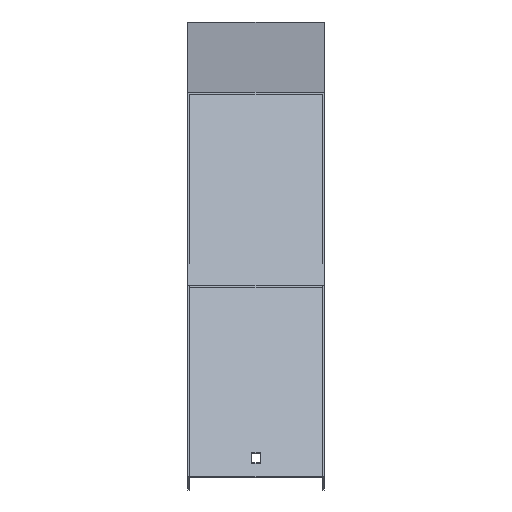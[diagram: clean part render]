
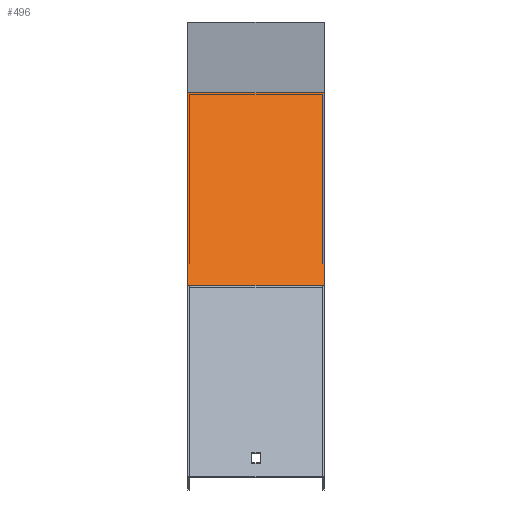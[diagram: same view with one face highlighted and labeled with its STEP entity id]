
A CAD part, top view. The second image highlights one B-rep face of the part: STEP entity #496.
In plain terms, the highlighted planar face has unit normal (0, 0.707, 0.707).
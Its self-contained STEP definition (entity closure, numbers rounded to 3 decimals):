
#15 = AXIS2_PLACEMENT_3D ( 'NONE', #660, #586, #737 ) ;
#25 = VERTEX_POINT ( 'NONE', #516 ) ;
#35 = DIRECTION ( 'NONE',  ( 0., -0.707, 0.707 ) ) ;
#41 = ORIENTED_EDGE ( 'NONE', *, *, #674, .F. ) ;
#54 = CARTESIAN_POINT ( 'NONE',  ( -51.5, -33.573, 366.572 ) ) ;
#110 = LINE ( 'NONE', #182, #288 ) ;
#156 = EDGE_CURVE ( 'NONE', #191, #676, #110, .T. ) ;
#182 = CARTESIAN_POINT ( 'NONE',  ( 51.5, -33.573, 366.572 ) ) ;
#191 = VERTEX_POINT ( 'NONE', #713 ) ;
#216 = FACE_OUTER_BOUND ( 'NONE', #559, .T. ) ;
#226 = VECTOR ( 'NONE', #610, 1000. ) ;
#288 = VECTOR ( 'NONE', #562, 1000. ) ;
#304 = ORIENTED_EDGE ( 'NONE', *, *, #156, .T. ) ;
#318 = ORIENTED_EDGE ( 'NONE', *, *, #788, .T. ) ;
#354 = PLANE ( 'NONE',  #15 ) ;
#416 = LINE ( 'NONE', #968, #759 ) ;
#496 = ADVANCED_FACE ( 'NONE', ( #216 ), #354, .F. ) ;
#503 = DIRECTION ( 'NONE',  ( -1., 0., 0. ) ) ;
#515 = LINE ( 'NONE', #582, #533 ) ;
#516 = CARTESIAN_POINT ( 'NONE',  ( -51.5, -179.939, 512.937 ) ) ;
#533 = VECTOR ( 'NONE', #503, 1000. ) ;
#559 = EDGE_LOOP ( 'NONE', ( #318, #41, #682, #304 ) ) ;
#562 = DIRECTION ( 'NONE',  ( -1., 0., 0. ) ) ;
#582 = CARTESIAN_POINT ( 'NONE',  ( 51.5, -179.939, 512.937 ) ) ;
#586 = DIRECTION ( 'NONE',  ( 0., -0.707, -0.707 ) ) ;
#601 = EDGE_CURVE ( 'NONE', #191, #684, #987, .T. ) ;
#610 = DIRECTION ( 'NONE',  ( 0., -0.707, 0.707 ) ) ;
#660 = CARTESIAN_POINT ( 'NONE',  ( 51.5, -37.363, 370.361 ) ) ;
#674 = EDGE_CURVE ( 'NONE', #684, #25, #515, .T. ) ;
#676 = VERTEX_POINT ( 'NONE', #54 ) ;
#682 = ORIENTED_EDGE ( 'NONE', *, *, #601, .F. ) ;
#684 = VERTEX_POINT ( 'NONE', #812 ) ;
#713 = CARTESIAN_POINT ( 'NONE',  ( 51.5, -33.573, 366.572 ) ) ;
#737 = DIRECTION ( 'NONE',  ( 0., 0.707, -0.707 ) ) ;
#759 = VECTOR ( 'NONE', #35, 1000. ) ;
#788 = EDGE_CURVE ( 'NONE', #676, #25, #416, .T. ) ;
#812 = CARTESIAN_POINT ( 'NONE',  ( 51.5, -179.939, 512.937 ) ) ;
#930 = CARTESIAN_POINT ( 'NONE',  ( 51.5, -37.363, 370.361 ) ) ;
#968 = CARTESIAN_POINT ( 'NONE',  ( -51.5, -37.363, 370.361 ) ) ;
#987 = LINE ( 'NONE', #930, #226 ) ;
